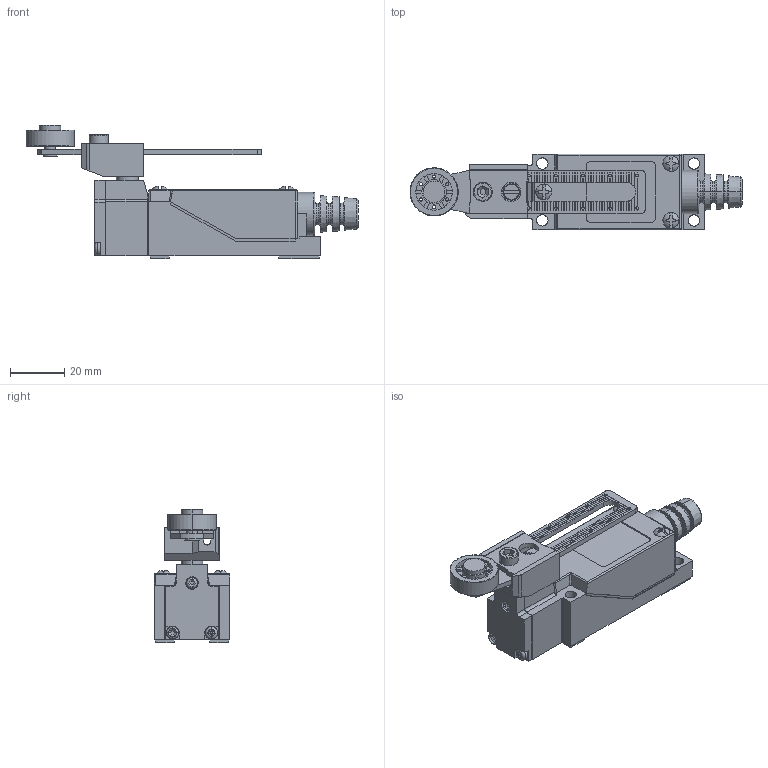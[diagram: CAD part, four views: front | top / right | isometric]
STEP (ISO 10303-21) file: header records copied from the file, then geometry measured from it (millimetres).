
FILE_DESCRIPTION(('STEP AP203'), '1');
FILE_NAME('Korpus-8.stp', '2014-07-04T10:02:57', ('UNSPECIFIED'), ('UNSPECIFIED'), 'ASCON STEP Converter 1.0', 'Kompas 3D', '');
FILE_SCHEMA(('CONFIG_CONTROL_DESIGN'));
Length unit declared in the file: millimetre
Bounding box: 122.63 x 28 x 49.2 mm (x, y, z)
Surface area: 18242.2 mm2 (no closed solid volume)
Topology: 0 solids, 1 shells, 903 faces, 2518 edges, 1639 vertices
Faces by surface type: plane 721, cylinder 123, torus 30, cone 16, sphere 11, bspline 2
Full cylindrical faces by diameter (mm): 16 x1
Entity records: 28917 total; most frequent: CARTESIAN_POINT 6418, ORIENTED_EDGE 5019, DIRECTION 4196, EDGE_CURVE 2511, LINE 1994, VECTOR 1994, VERTEX_POINT 1639, AXIS2_PLACEMENT_3D 1101
